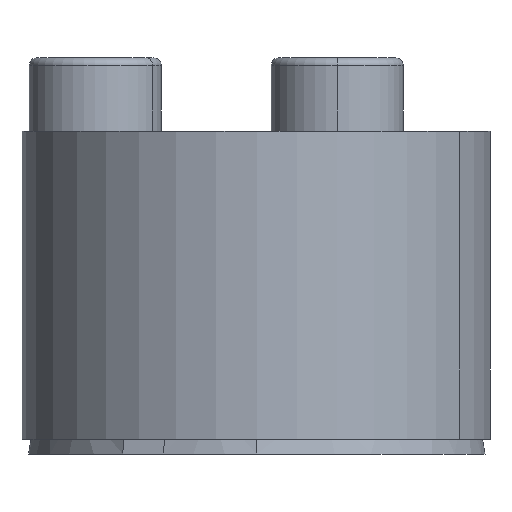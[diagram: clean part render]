
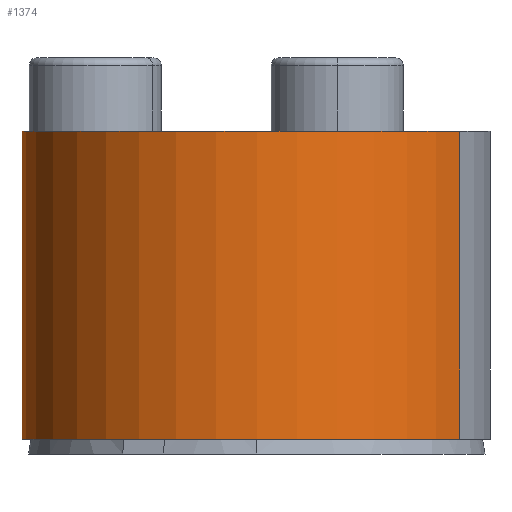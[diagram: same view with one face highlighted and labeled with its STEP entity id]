
A CAD part, left-side view. The second image highlights one B-rep face of the part: STEP entity #1374.
In plain terms, the highlighted cylindrical face has radius 8 mm (diameter 16 mm), a partial arc.
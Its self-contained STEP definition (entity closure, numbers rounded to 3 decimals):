
#189 = VERTEX_POINT ( 'NONE', #1514 ) ;
#244 = DIRECTION ( 'NONE',  ( 0.5, 0.866, 0. ) ) ;
#411 = DIRECTION ( 'NONE',  ( 0.5, 0.866, 0. ) ) ;
#432 = CARTESIAN_POINT ( 'NONE',  ( 4., 6.928, 0.505 ) ) ;
#447 = AXIS2_PLACEMENT_3D ( 'NONE', #5610, #2960, #244 ) ;
#592 = AXIS2_PLACEMENT_3D ( 'NONE', #2094, #1915, #1660 ) ;
#633 = EDGE_LOOP ( 'NONE', ( #3139, #4974, #4155, #1324 ) ) ;
#762 = CARTESIAN_POINT ( 'NONE',  ( -4., -6.928, 11.005 ) ) ;
#1126 = VERTEX_POINT ( 'NONE', #4373 ) ;
#1324 = ORIENTED_EDGE ( 'NONE', *, *, #3374, .T. ) ;
#1374 = ADVANCED_FACE ( 'NONE', ( #3455 ), #1820, .T. ) ;
#1514 = CARTESIAN_POINT ( 'NONE',  ( 4., 6.928, 11.005 ) ) ;
#1660 = DIRECTION ( 'NONE',  ( -0.5, -0.866, 0. ) ) ;
#1700 = VECTOR ( 'NONE', #3602, 1000. ) ;
#1820 = CYLINDRICAL_SURFACE ( 'NONE', #592, 8. ) ;
#1889 = VERTEX_POINT ( 'NONE', #2061 ) ;
#1915 = DIRECTION ( 'NONE',  ( 0., 0., 1. ) ) ;
#2061 = CARTESIAN_POINT ( 'NONE',  ( -4., -6.928, 0.505 ) ) ;
#2094 = CARTESIAN_POINT ( 'NONE',  ( 0., 0., 0.505 ) ) ;
#2915 = LINE ( 'NONE', #432, #1700 ) ;
#2960 = DIRECTION ( 'NONE',  ( 0., 0., -1. ) ) ;
#3108 = VECTOR ( 'NONE', #4815, 1000. ) ;
#3132 = DIRECTION ( 'NONE',  ( 0., 0., -1. ) ) ;
#3139 = ORIENTED_EDGE ( 'NONE', *, *, #3515, .F. ) ;
#3330 = CIRCLE ( 'NONE', #5489, 8. ) ;
#3374 = EDGE_CURVE ( 'NONE', #3840, #189, #3330, .T. ) ;
#3455 = FACE_OUTER_BOUND ( 'NONE', #633, .T. ) ;
#3515 = EDGE_CURVE ( 'NONE', #1126, #189, #2915, .T. ) ;
#3602 = DIRECTION ( 'NONE',  ( 0., 0., 1. ) ) ;
#3626 = CIRCLE ( 'NONE', #447, 8. ) ;
#3840 = VERTEX_POINT ( 'NONE', #762 ) ;
#3936 = CARTESIAN_POINT ( 'NONE',  ( -4., -6.928, 0.505 ) ) ;
#4155 = ORIENTED_EDGE ( 'NONE', *, *, #4372, .T. ) ;
#4281 = LINE ( 'NONE', #3936, #3108 ) ;
#4372 = EDGE_CURVE ( 'NONE', #1889, #3840, #4281, .T. ) ;
#4373 = CARTESIAN_POINT ( 'NONE',  ( 4., 6.928, 0.505 ) ) ;
#4815 = DIRECTION ( 'NONE',  ( 0., 0., 1. ) ) ;
#4974 = ORIENTED_EDGE ( 'NONE', *, *, #5367, .F. ) ;
#5367 = EDGE_CURVE ( 'NONE', #1889, #1126, #3626, .T. ) ;
#5489 = AXIS2_PLACEMENT_3D ( 'NONE', #5780, #3132, #411 ) ;
#5610 = CARTESIAN_POINT ( 'NONE',  ( 0., 0., 0.505 ) ) ;
#5780 = CARTESIAN_POINT ( 'NONE',  ( 0., 0., 11.005 ) ) ;
